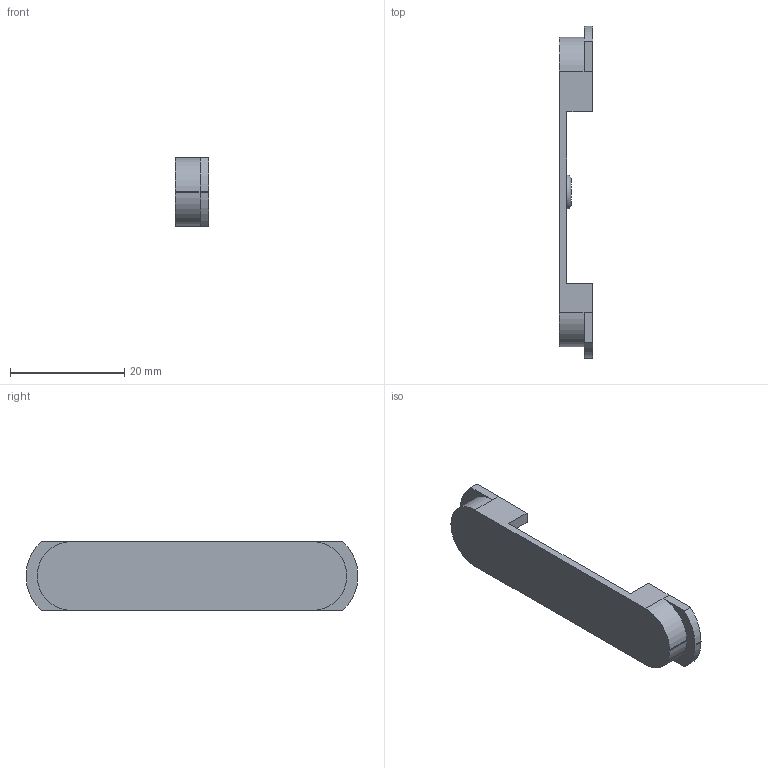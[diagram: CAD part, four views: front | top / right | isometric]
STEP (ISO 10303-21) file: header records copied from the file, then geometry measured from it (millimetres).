
FILE_DESCRIPTION(/* description */ (''),/* implementation_level */ '2;1');
FILE_NAME(/* name */ '04_Talk_Grip.step',/* time_stamp */ '2026-09-19T10:15:31-07:00',/* author */ (''),/* organization */ (''),/* preprocessor_version */ 'ST-DEVELOPER v20.2',/* originating_system */ 'Autodesk Translation Framework v15.15.0.0',/* authorisation */ '');
FILE_SCHEMA (('AUTOMOTIVE_DESIGN { 1 0 10303 214 3 1 1 }'));
Length unit declared in the file: millimetre
Products named in the file (1): 2026-09-19-10-15-31-218
Bounding box: 5.8 x 58 x 12 mm (x, y, z)
Volume: 1411.3 mm3; surface area: 2071.5 mm2
Topology: 1 solids, 1 shells, 42 faces, 111 edges, 72 vertices
Faces by surface type: plane 29, cylinder 12, torus 1
Entity records: 1327 total; most frequent: CARTESIAN_POINT 226, DIRECTION 224, ORIENTED_EDGE 222, EDGE_CURVE 111, LINE 84, VECTOR 84, VERTEX_POINT 72, AXIS2_PLACEMENT_3D 70
